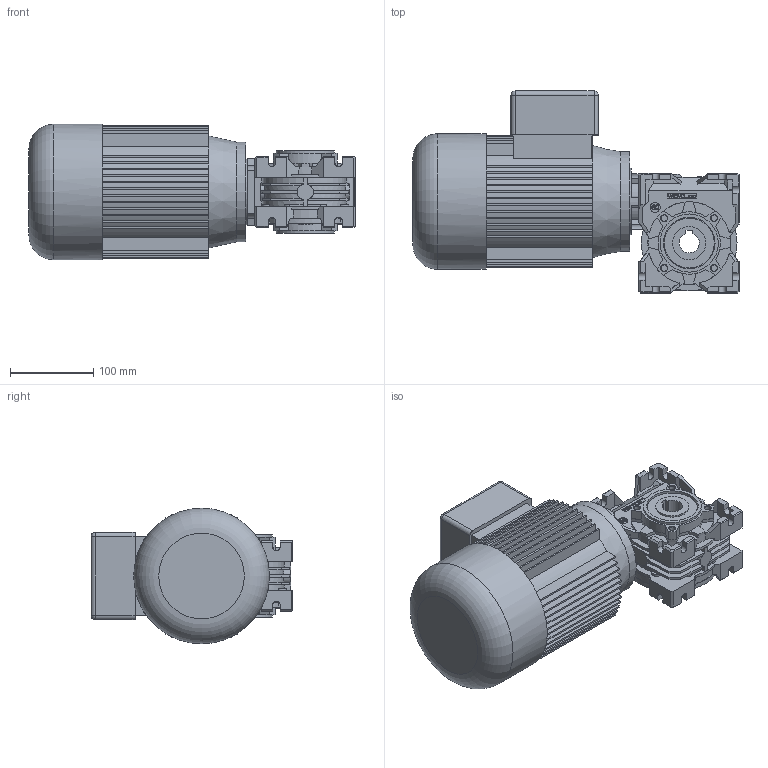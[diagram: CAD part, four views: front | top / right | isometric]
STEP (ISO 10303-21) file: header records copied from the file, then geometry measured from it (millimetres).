
FILE_DESCRIPTION( ( 'Unknown' ), '1' );
FILE_NAME( 'E:/services/configuratordownloads/customers/VARVEL/RT/download/89333D2BE732983F963943297C31951/STEP/89333D2BE732983F963943297C31951.3d.stp', 'Unknown', ( 'Unknown' ), ( 'Unknown' ), 'PSStep 10.1', 'Unknown', ' ' );
FILE_SCHEMA( ( 'AUTOMOTIVE_DESIGN { 1 0 10303 214 1 1 1 1 }' ) );
Length unit declared in the file: millimetre
Products named in the file (1): 532101
Bounding box: 392.5 x 243 x 163 mm (x, y, z)
Volume: 5932707.5 mm3; surface area: 494391.5 mm2
Topology: 1 solids, 4 shells, 1196 faces, 3260 edges, 2128 vertices
Faces by surface type: plane 944, cylinder 211, cone 35, sphere 4, torus 2
Full cylindrical faces by diameter (mm): 5 x4, 7 x4, 7.5 x8, 7.6 x4, 8.5 x4, 12 x1, 19 x1, 20 x2, 21.5 x1, 25 x1, 40 x2, 45 x1, 47 x2, 60 x1, 60.1 x4, 61 x1, 62 x2, 68 x2, 68.4 x1, 70 x3, 78.5 x1, 80 x2, 90 x1, 120 x1, 163 x1
Entity records: 46697 total; most frequent: CARTESIAN_POINT 6927, ORIENTED_EDGE 6306, DIRECTION 6095, EDGE_CURVE 3153, LINE 2457, VECTOR 2457, VERTEX_POINT 2101, AXIS2_PLACEMENT_3D 1819
